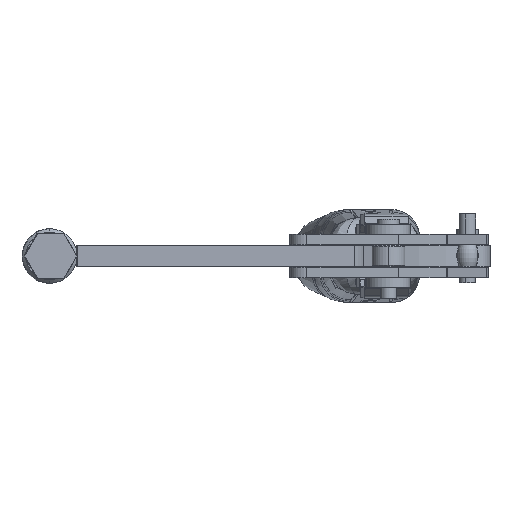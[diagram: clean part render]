
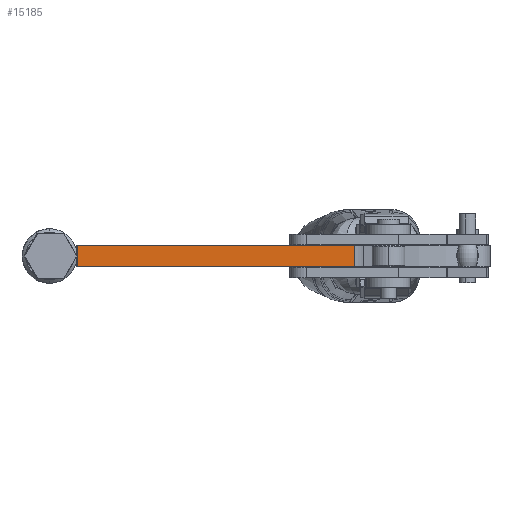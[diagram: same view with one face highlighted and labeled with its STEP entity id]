
A CAD part, front view. The second image highlights one B-rep face of the part: STEP entity #15185.
In plain terms, the highlighted planar face has unit normal (0.009, -1, 0) as drawn and (0, 0, 1) by its records, which use the part's own axes.
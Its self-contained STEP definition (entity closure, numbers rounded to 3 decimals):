
#456 = PLANE ( 'NONE',  #15135 ) ;
#1392 = LINE ( 'NONE', #11344, #4033 ) ;
#2202 = VECTOR ( 'NONE', #19280, 1000. ) ;
#2216 = DIRECTION ( 'NONE',  ( -1., 0., 0. ) ) ;
#2501 = EDGE_CURVE ( 'NONE', #14516, #3363, #21203, .T. ) ;
#3363 = VERTEX_POINT ( 'NONE', #15292 ) ;
#3565 = VERTEX_POINT ( 'NONE', #10214 ) ;
#4033 = VECTOR ( 'NONE', #16458, 1000. ) ;
#4034 = VECTOR ( 'NONE', #21017, 1000. ) ;
#4095 = CARTESIAN_POINT ( 'NONE',  ( -23.099, 6.35, 6.35 ) ) ;
#4180 = CARTESIAN_POINT ( 'NONE',  ( 57.55, 0., 6.35 ) ) ;
#4287 = EDGE_CURVE ( 'NONE', #3565, #14516, #12478, .T. ) ;
#7225 = CARTESIAN_POINT ( 'NONE',  ( 57.55, 6.35, 6.35 ) ) ;
#7636 = DIRECTION ( 'NONE',  ( 1., 0., 0. ) ) ;
#9257 = CARTESIAN_POINT ( 'NONE',  ( 57.55, 6.35, 6.35 ) ) ;
#10214 = CARTESIAN_POINT ( 'NONE',  ( -23.099, 6.35, 6.35 ) ) ;
#11344 = CARTESIAN_POINT ( 'NONE',  ( 57.55, 6.35, 6.35 ) ) ;
#12320 = DIRECTION ( 'NONE',  ( 0., 0., -1. ) ) ;
#12478 = LINE ( 'NONE', #4095, #4034 ) ;
#12785 = VECTOR ( 'NONE', #7636, 1000. ) ;
#13388 = ORIENTED_EDGE ( 'NONE', *, *, #17656, .F. ) ;
#13673 = VERTEX_POINT ( 'NONE', #16913 ) ;
#14177 = CARTESIAN_POINT ( 'NONE',  ( -23.099, 0., 6.35 ) ) ;
#14516 = VERTEX_POINT ( 'NONE', #14177 ) ;
#14874 = EDGE_LOOP ( 'NONE', ( #13388, #20960, #20354, #21564 ) ) ;
#15135 = AXIS2_PLACEMENT_3D ( 'NONE', #7225, #12320, #2216 ) ;
#15185 = ADVANCED_FACE ( 'NONE', ( #19869 ), #456, .F. ) ;
#15292 = CARTESIAN_POINT ( 'NONE',  ( 57.55, 0., 6.35 ) ) ;
#15988 = EDGE_CURVE ( 'NONE', #13673, #3363, #1392, .T. ) ;
#16458 = DIRECTION ( 'NONE',  ( 0., -1., 0. ) ) ;
#16913 = CARTESIAN_POINT ( 'NONE',  ( 57.55, 6.35, 6.35 ) ) ;
#17656 = EDGE_CURVE ( 'NONE', #3565, #13673, #19571, .T. ) ;
#19280 = DIRECTION ( 'NONE',  ( 1., 0., 0. ) ) ;
#19571 = LINE ( 'NONE', #9257, #2202 ) ;
#19869 = FACE_OUTER_BOUND ( 'NONE', #14874, .T. ) ;
#20354 = ORIENTED_EDGE ( 'NONE', *, *, #2501, .T. ) ;
#20960 = ORIENTED_EDGE ( 'NONE', *, *, #4287, .T. ) ;
#21017 = DIRECTION ( 'NONE',  ( 0., -1., 0. ) ) ;
#21203 = LINE ( 'NONE', #4180, #12785 ) ;
#21564 = ORIENTED_EDGE ( 'NONE', *, *, #15988, .F. ) ;
